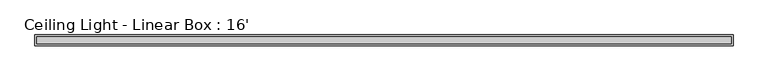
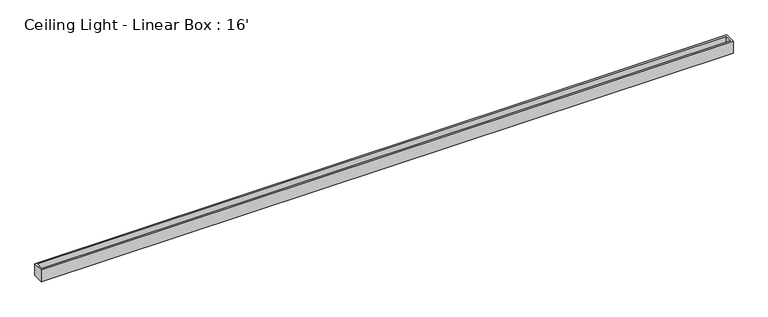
"""IFC4 building model written with IfcOpenShell, lengths in millimetres: light fixture geometry, Ceiling Light - Linear Box : 16'."""

from ifc_helpers import new_model, si_unit, frame, origin, place, context, project, spatial, polyline, outline, extrude, source, transform, mapped, element, save


def ceiling_light_linear_box_16_7e0508d4(model_context):
    return source(origin(), model_context, "Body", "SweptSolid", [
        extrude(outline(polyline([(2425.7, 25.4), (2425.7, -25.4), (-2425.7, -25.4), (-2425.7, 25.4), (2425.7, 25.4)])), frame((0.0, 0.0, 2438.4), z_axis=(0.0, 0.0, 1.0), x_axis=(1.0, 0.0, 0.0)), (0.0, 0.0, 1.0), 6.35),
        extrude(outline(polyline([(2438.4, 38.1), (2438.4, -38.1), (-2438.4, -38.1), (-2438.4, 38.1), (2438.4, 38.1)]), holes=[polyline([(2425.7, 25.4), (-2425.7, 25.4), (-2425.7, -25.4), (2425.7, -25.4), (2425.7, 25.4)])]), frame((0.0, 0.0, 2438.4), z_axis=(0.0, 0.0, 1.0), x_axis=(1.0, 0.0, 0.0)), (0.0, 0.0, 1.0), 88.9),
    ])


if __name__ == "__main__":
    model = new_model("IFC4")
    model_context = context("Model", 3, world=origin())
    ifc_project = project(units=[si_unit("LENGTHUNIT", "METRE", prefix="MILLI")], contexts=[model_context])
    site = spatial("IfcSite", under=ifc_project)
    building = spatial("IfcBuilding", under=site)
    placement = place(None, origin())
    ceiling_light_linear_box_16_shape = ceiling_light_linear_box_16_7e0508d4(model_context)
    element("IfcLightFixture", 1, ObjectType="Ceiling Light - Linear Box : 16'", at=placement, inside=building, context=model_context, shape_type="MappedRepresentation", body=[
        mapped(ceiling_light_linear_box_16_shape, transform((0.0, 0.0, 0.0), x_axis=(1.0, 0.0, 0.0), y_axis=(0.0, 1.0, 0.0), z_axis=(0.0, 0.0, 1.0))),
    ])
    save(model, "model.ifc")
